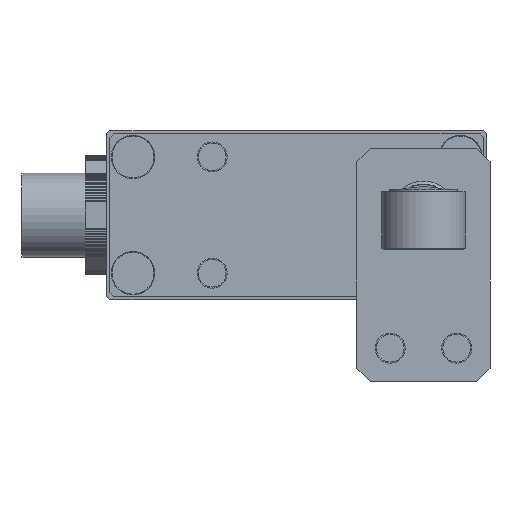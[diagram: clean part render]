
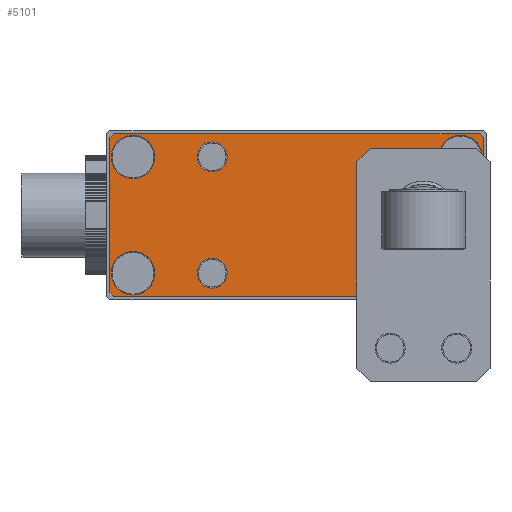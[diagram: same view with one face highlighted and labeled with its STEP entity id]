
A CAD part, left-side view. The second image highlights one B-rep face of the part: STEP entity #5101.
In plain terms, the highlighted planar face has unit normal (-1, 0, 0).
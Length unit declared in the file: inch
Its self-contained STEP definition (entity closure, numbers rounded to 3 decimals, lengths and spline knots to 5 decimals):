
#5101 = ADVANCED_FACE( '', ( #10444, #10445, #10446, #10447, #10448, #10449, #10450, #10451 ), #10452, .T. );
#10444 = FACE_BOUND( '', #16059, .T. );
#10445 = FACE_BOUND( '', #16060, .T. );
#10446 = FACE_BOUND( '', #16061, .T. );
#10447 = FACE_BOUND( '', #16062, .T. );
#10448 = FACE_OUTER_BOUND( '', #16063, .T. );
#10449 = FACE_BOUND( '', #16064, .T. );
#10450 = FACE_BOUND( '', #16065, .T. );
#10451 = FACE_BOUND( '', #16066, .T. );
#10452 = PLANE( '', #16067 );
#16059 = EDGE_LOOP( '', ( #32031 ) );
#16060 = EDGE_LOOP( '', ( #32032 ) );
#16061 = EDGE_LOOP( '', ( #32033 ) );
#16062 = EDGE_LOOP( '', ( #32034 ) );
#16063 = EDGE_LOOP( '', ( #32035, #32036, #32037, #32038, #32039, #32040, #32041, #32042 ) );
#16064 = EDGE_LOOP( '', ( #32043 ) );
#16065 = EDGE_LOOP( '', ( #32044 ) );
#16066 = EDGE_LOOP( '', ( #32045 ) );
#16067 = AXIS2_PLACEMENT_3D( '', #32046, #32047, #32048 );
#32031 = ORIENTED_EDGE( '', *, *, #37764, .T. );
#32032 = ORIENTED_EDGE( '', *, *, #38994, .T. );
#32033 = ORIENTED_EDGE( '', *, *, #39818, .T. );
#32034 = ORIENTED_EDGE( '', *, *, #33748, .T. );
#32035 = ORIENTED_EDGE( '', *, *, #35769, .T. );
#32036 = ORIENTED_EDGE( '', *, *, #36564, .F. );
#32037 = ORIENTED_EDGE( '', *, *, #36254, .T. );
#32038 = ORIENTED_EDGE( '', *, *, #39701, .F. );
#32039 = ORIENTED_EDGE( '', *, *, #37244, .T. );
#32040 = ORIENTED_EDGE( '', *, *, #33765, .F. );
#32041 = ORIENTED_EDGE( '', *, *, #39819, .T. );
#32042 = ORIENTED_EDGE( '', *, *, #33822, .F. );
#32043 = ORIENTED_EDGE( '', *, *, #39351, .T. );
#32044 = ORIENTED_EDGE( '', *, *, #36248, .T. );
#32045 = ORIENTED_EDGE( '', *, *, #39820, .T. );
#32046 = CARTESIAN_POINT( '', ( 6.07702, 1.865, -0.28528 ) );
#32047 = DIRECTION( '', ( -1., 0., 0. ) );
#32048 = DIRECTION( '', ( 0., -1., 0. ) );
#33748 = EDGE_CURVE( '', #40727, #40727, #40728, .F. );
#33765 = EDGE_CURVE( '', #40756, #40757, #40758, .T. );
#33822 = EDGE_CURVE( '', #40857, #40852, #40859, .T. );
#35769 = EDGE_CURVE( '', #40857, #44112, #44114, .F. );
#36248 = EDGE_CURVE( '', #44841, #44841, #44842, .T. );
#36254 = EDGE_CURVE( '', #44847, #44851, #44853, .F. );
#36564 = EDGE_CURVE( '', #44847, #44112, #45296, .T. );
#37244 = EDGE_CURVE( '', #46324, #40757, #46327, .F. );
#37764 = EDGE_CURVE( '', #47085, #47085, #47086, .T. );
#38994 = EDGE_CURVE( '', #48691, #48691, #48692, .T. );
#39351 = EDGE_CURVE( '', #49083, #49083, #49084, .F. );
#39701 = EDGE_CURVE( '', #46324, #44851, #49457, .T. );
#39818 = EDGE_CURVE( '', #49579, #49579, #49580, .F. );
#39819 = EDGE_CURVE( '', #40756, #40852, #49581, .F. );
#39820 = EDGE_CURVE( '', #49582, #49582, #49583, .T. );
#40727 = VERTEX_POINT( '', #50728 );
#40728 = CIRCLE( '', #50729, 0.1675 );
#40756 = VERTEX_POINT( '', #50770 );
#40757 = VERTEX_POINT( '', #50771 );
#40758 = LINE( '', #50772, #50773 );
#40852 = VERTEX_POINT( '', #50894 );
#40857 = VERTEX_POINT( '', #50901 );
#40859 = LINE( '', #50904, #50905 );
#44112 = VERTEX_POINT( '', #55367 );
#44114 = LINE( '', #55370, #55371 );
#44841 = VERTEX_POINT( '', #56359 );
#44842 = CIRCLE( '', #56360, 0.129 );
#44847 = VERTEX_POINT( '', #56365 );
#44851 = VERTEX_POINT( '', #56371 );
#44853 = LINE( '', #56374, #56375 );
#45296 = LINE( '', #56961, #56962 );
#46324 = VERTEX_POINT( '', #58473 );
#46327 = LINE( '', #58478, #58479 );
#47085 = VERTEX_POINT( '', #59507 );
#47086 = CIRCLE( '', #59508, 0.129 );
#48691 = VERTEX_POINT( '', #61646 );
#48692 = CIRCLE( '', #61647, 0.129 );
#49083 = VERTEX_POINT( '', #62175 );
#49084 = CIRCLE( '', #62176, 0.0885 );
#49457 = LINE( '', #62639, #62640 );
#49579 = VERTEX_POINT( '', #62789 );
#49580 = CIRCLE( '', #62790, 0.0885 );
#49581 = LINE( '', #62791, #62792 );
#49582 = VERTEX_POINT( '', #62793 );
#49583 = CIRCLE( '', #62794, 0.129 );
#50728 = CARTESIAN_POINT( '', ( 6.07702, -0.1675, 0.20472 ) );
#50729 = AXIS2_PLACEMENT_3D( '', #63510, #63511, #63512 );
#50770 = CARTESIAN_POINT( '', ( 6.07702, 1.835, 0.68472 ) );
#50771 = CARTESIAN_POINT( '', ( 6.07702, -0.335, 0.68472 ) );
#50772 = CARTESIAN_POINT( '', ( 6.07702, 0.75, 0.68472 ) );
#50773 = VECTOR( '', #63529, 39.37008 );
#50894 = CARTESIAN_POINT( '', ( 6.07702, 1.855, 0.66472 ) );
#50901 = CARTESIAN_POINT( '', ( 6.07702, 1.855, -0.25528 ) );
#50904 = CARTESIAN_POINT( '', ( 6.07702, 1.855, 0.20472 ) );
#50905 = VECTOR( '', #63602, 39.37008 );
#55367 = CARTESIAN_POINT( '', ( 6.07702, 1.835, -0.27528 ) );
#55370 = CARTESIAN_POINT( '', ( 6.07702, 1.845, -0.26528 ) );
#55371 = VECTOR( '', #66283, 39.37008 );
#56359 = CARTESIAN_POINT( '', ( 6.07702, -0.08975, 0.54847 ) );
#56360 = AXIS2_PLACEMENT_3D( '', #66862, #66863, #66864 );
#56365 = CARTESIAN_POINT( '', ( 6.07702, -0.335, -0.27528 ) );
#56371 = CARTESIAN_POINT( '', ( 6.07702, -0.355, -0.25528 ) );
#56374 = CARTESIAN_POINT( '', ( 6.07702, 0.77, -1.38028 ) );
#56375 = VECTOR( '', #66871, 39.37008 );
#56961 = CARTESIAN_POINT( '', ( 6.07702, 0.75, -0.27528 ) );
#56962 = VECTOR( '', #67261, 39.37008 );
#58473 = CARTESIAN_POINT( '', ( 6.07702, -0.355, 0.66472 ) );
#58478 = CARTESIAN_POINT( '', ( 6.07702, 0.28, 1.29972 ) );
#58479 = VECTOR( '', #68113, 39.37008 );
#59507 = CARTESIAN_POINT( '', ( 6.07702, 1.84775, 0.54847 ) );
#59508 = AXIS2_PLACEMENT_3D( '', #68873, #68874, #68875 );
#61646 = CARTESIAN_POINT( '', ( 6.07702, -0.08975, -0.13903 ) );
#61647 = AXIS2_PLACEMENT_3D( '', #70779, #70780, #70781 );
#62175 = CARTESIAN_POINT( '', ( 6.07702, 1.1615, 0.54872 ) );
#62176 = AXIS2_PLACEMENT_3D( '', #71052, #71053, #71054 );
#62639 = CARTESIAN_POINT( '', ( 6.07702, -0.355, 0.20472 ) );
#62640 = VECTOR( '', #71283, 39.37008 );
#62789 = CARTESIAN_POINT( '', ( 6.07702, 1.1615, -0.13928 ) );
#62790 = AXIS2_PLACEMENT_3D( '', #71326, #71327, #71328 );
#62791 = CARTESIAN_POINT( '', ( 6.07702, 2.335, 0.18472 ) );
#62792 = VECTOR( '', #71329, 39.37008 );
#62793 = CARTESIAN_POINT( '', ( 6.07702, 1.84775, -0.13903 ) );
#62794 = AXIS2_PLACEMENT_3D( '', #71330, #71331, #71332 );
#63510 = CARTESIAN_POINT( '', ( 6.07702, 0., 0.20472 ) );
#63511 = DIRECTION( '', ( -1., 0., 0. ) );
#63512 = DIRECTION( '', ( 0., -1., 0. ) );
#63529 = DIRECTION( '', ( 0., -1., 0. ) );
#63602 = DIRECTION( '', ( 0., 0., 1. ) );
#66283 = DIRECTION( '', ( 0., 0.707, 0.707 ) );
#66862 = CARTESIAN_POINT( '', ( 6.07702, -0.21875, 0.54847 ) );
#66863 = DIRECTION( '', ( 1., 0., 0. ) );
#66864 = DIRECTION( '', ( 0., 1., 0. ) );
#66871 = DIRECTION( '', ( 0., 0.707, -0.707 ) );
#67261 = DIRECTION( '', ( 0., 1., 0. ) );
#68113 = DIRECTION( '', ( 0., -0.707, -0.707 ) );
#68873 = CARTESIAN_POINT( '', ( 6.07702, 1.71875, 0.54847 ) );
#68874 = DIRECTION( '', ( 1., 0., 0. ) );
#68875 = DIRECTION( '', ( 0., 1., 0. ) );
#70779 = CARTESIAN_POINT( '', ( 6.07702, -0.21875, -0.13903 ) );
#70780 = DIRECTION( '', ( 1., 0., 0. ) );
#70781 = DIRECTION( '', ( 0., 1., 0. ) );
#71052 = CARTESIAN_POINT( '', ( 6.07702, 1.25, 0.54872 ) );
#71053 = DIRECTION( '', ( -1., 0., 0. ) );
#71054 = DIRECTION( '', ( 0., -1., 0. ) );
#71283 = DIRECTION( '', ( 0., 0., -1. ) );
#71326 = CARTESIAN_POINT( '', ( 6.07702, 1.25, -0.13928 ) );
#71327 = DIRECTION( '', ( -1., 0., 0. ) );
#71328 = DIRECTION( '', ( 0., -1., 0. ) );
#71329 = DIRECTION( '', ( 0., -0.707, 0.707 ) );
#71330 = CARTESIAN_POINT( '', ( 6.07702, 1.71875, -0.13903 ) );
#71331 = DIRECTION( '', ( 1., 0., 0. ) );
#71332 = DIRECTION( '', ( 0., 1., 0. ) );
